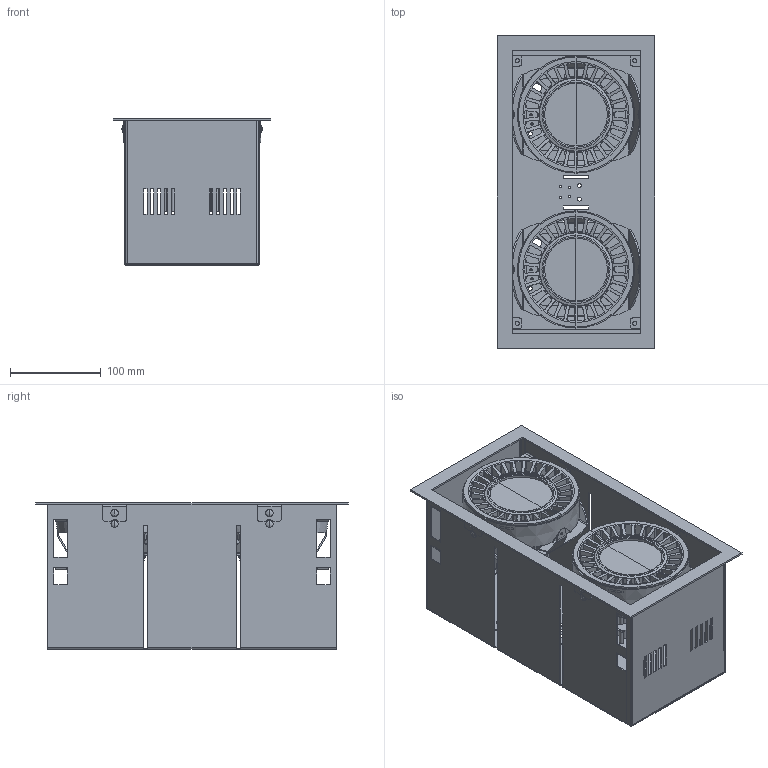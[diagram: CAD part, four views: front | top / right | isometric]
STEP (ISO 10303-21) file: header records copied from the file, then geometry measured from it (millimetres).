
FILE_DESCRIPTION(/* description */ (''),/* implementation_level */ '2;1');
FILE_NAME(/* name */ 'C:\Users\FrancoSartori\Documents\FARO\01_En Proceso\000_PRO\00_1 COLIN\03_Publicación\COLIN-2.stp',/* time_stamp */ '2021-11-16T10:13:20+01:00',/* author */ ('FrancoSartori'),/* organization */ (''),/* preprocessor_version */ 'ST-DEVELOPER v18.1',/* originating_system */ 'AutoCAD Mechanical',/* authorisation */ '');
FILE_SCHEMA (('AUTOMOTIVE_DESIGN { 1 0 10303 214 3 1 1 }'));
Products named in the file (2): Product; COLIN-2_ - Lamp-474609-View 1
Assembly tree (1 placements, depth 2):
  Product
    COLIN-2_ - Lamp-474609-View 1
Bounding box: 173 x 343 x 160.75 mm (x, y, z)
Volume: 832195.7 mm3; surface area: 845630.3 mm2
Topology: 50 solids, 50 shells, 2400 faces, 6447 edges, 4171 vertices
Faces by surface type: plane 1010, cylinder 978, cone 312, torus 52, sphere 32, bspline 16
Entity records: 80286 total; most frequent: CARTESIAN_POINT 21271, ORIENTED_EDGE 12866, DIRECTION 11834, EDGE_CURVE 6433, AXIS2_PLACEMENT_3D 4400, VERTEX_POINT 4171, LINE 3034, VECTOR 3034
